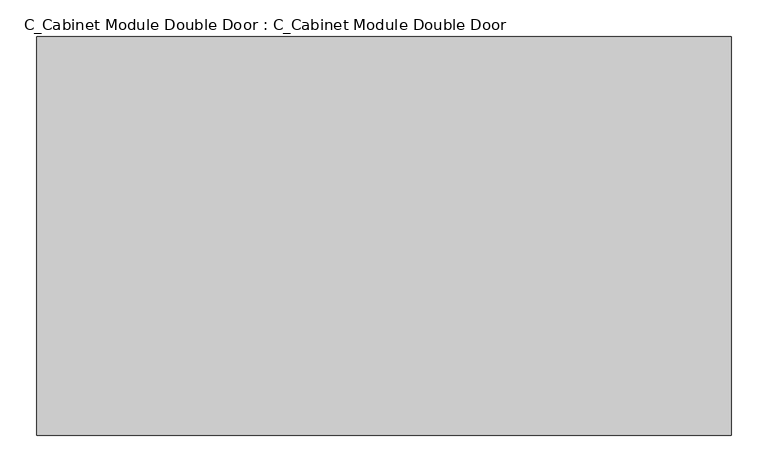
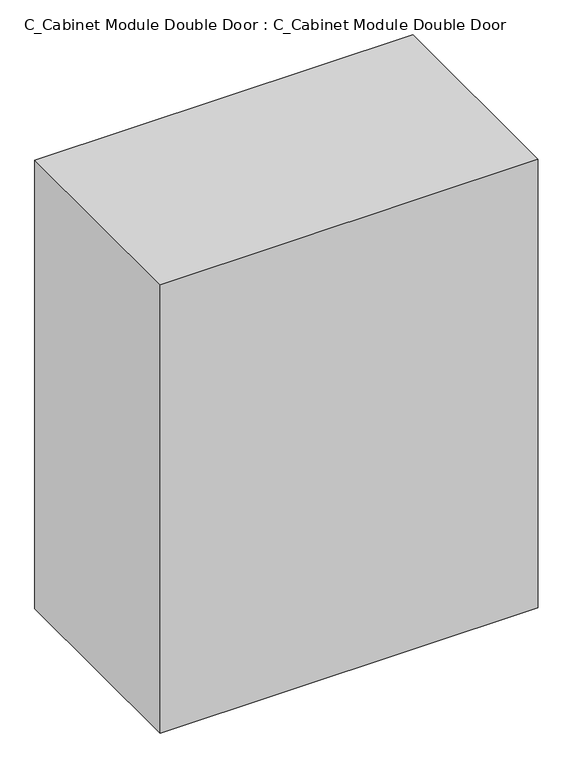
"""IFC4 building model written with IfcOpenShell, lengths in millimetres: furniture geometry, C_Cabinet Module Double Door : C_Cabinet Module Double Door."""

from ifc_helpers import new_model, si_unit, origin, origin_with_axes, place, context, project, spatial, polyline, outline, extrude, source, transform, mapped, element, save


def c_cabinet_module_double_door_c_cabinet_module_double_door_c4f58a1e(model_context):
    return source(origin(), model_context, "Body", "SweptSolid", [
        extrude(outline(polyline([(475.45625, 0.0), (-475.45625, 0.0), (-475.45625, 546.1), (475.45625, 546.1), (475.45625, 0.0)])), origin_with_axes(), (0.0, 0.0, 1.0), 1192.2125),
    ])


if __name__ == "__main__":
    model = new_model("IFC4")
    model_context = context("Model", 3, world=origin())
    ifc_project = project(units=[si_unit("LENGTHUNIT", "METRE", prefix="MILLI")], contexts=[model_context])
    site = spatial("IfcSite", under=ifc_project)
    building = spatial("IfcBuilding", under=site)
    placement = place(None, origin())
    c_cabinet_module_double_door_c_cabinet_module_double_door_shape = c_cabinet_module_double_door_c_cabinet_module_double_door_c4f58a1e(model_context)
    element("IfcFurniture", 1, ObjectType="C_Cabinet Module Double Door : C_Cabinet Module Double Door", at=placement, inside=building, context=model_context, shape_type="MappedRepresentation", body=[
        mapped(c_cabinet_module_double_door_c_cabinet_module_double_door_shape, transform((0.0, 0.0, 0.0), x_axis=(1.0, 0.0, 0.0), y_axis=(0.0, 1.0, 0.0), z_axis=(0.0, 0.0, 1.0))),
    ])
    save(model, "model.ifc")
